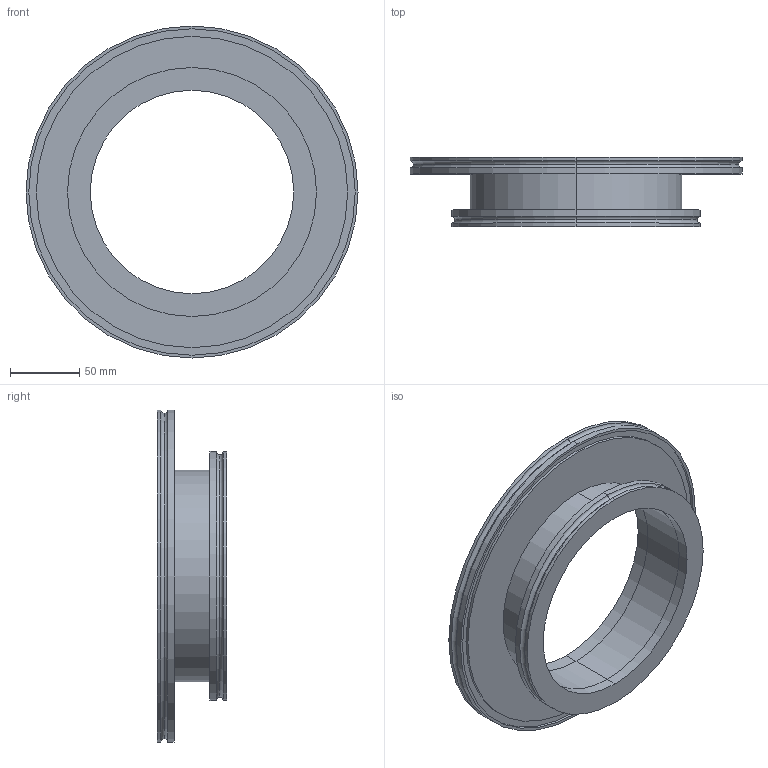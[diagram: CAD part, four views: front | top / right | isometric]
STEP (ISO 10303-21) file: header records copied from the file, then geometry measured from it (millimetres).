
FILE_DESCRIPTION (( 'STEP AP214' ), '1' );
FILE_NAME ('W4RS160-200.STEP', '2020-10-06T08:17:38', ( '' ), ( '' ), 'SwSTEP 2.0', 'SolidWorks 2020', '' );
FILE_SCHEMA (( 'AUTOMOTIVE_DESIGN' ));
Length unit declared in the file: millimetre
Products named in the file (1): W4RS160-200
Bounding box: 240 x 50 x 240 mm (x, y, z)
Volume: 429656.9 mm3; surface area: 145970.7 mm2
Topology: 3 solids, 3 shells, 51 faces, 102 edges, 64 vertices
Faces by surface type: cylinder 30, plane 13, torus 8
Entity records: 1416 total; most frequent: DIRECTION 278, CARTESIAN_POINT 218, ORIENTED_EDGE 204, AXIS2_PLACEMENT_3D 124, EDGE_CURVE 102, CIRCLE 72, EDGE_LOOP 64, VERTEX_POINT 64
